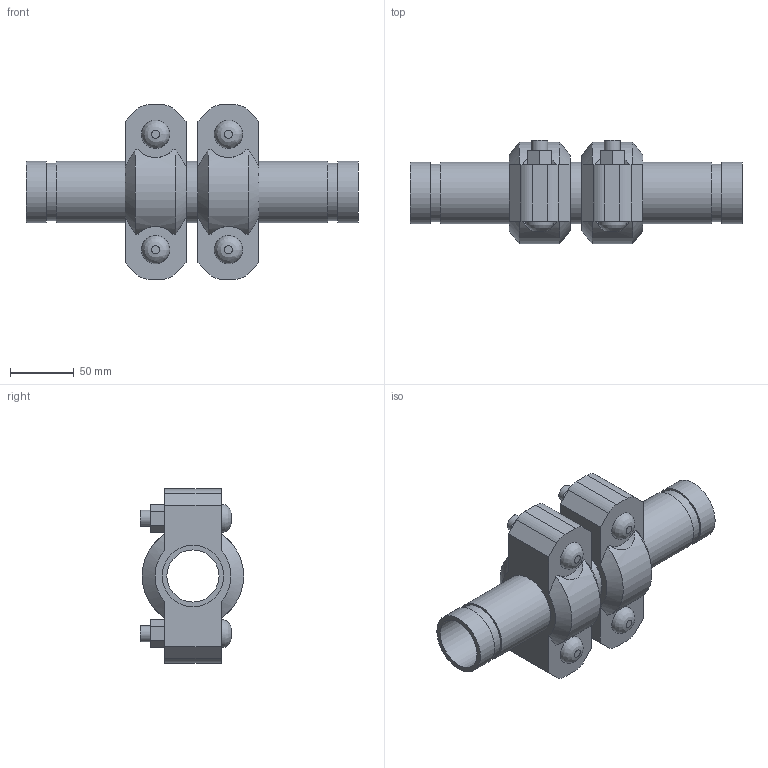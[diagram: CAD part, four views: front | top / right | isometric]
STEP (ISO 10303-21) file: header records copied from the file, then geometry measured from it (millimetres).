
FILE_DESCRIPTION(/* description */ ('VIC EXPANSION JOINT 2 COUPLINGS COMPRESSED STYLE 155 (OGS)','CAx-IF Rec.Pracs.---Representation and Presentation of Product Manufacturing Information (PMI)---4.0---2014-10-13'),/* implementation_level */ '2;1');
FILE_NAME(/* name */ 'C:\Users\kkamble\AppData\Roaming\Autodesk\ApplicationPlugins\Victaulic.Temp\A11\Victaulic_IPS_Expansion Joint_Compressed_2 Couplings_Style 155 (OGS)_1.5 (40).stp',/* time_stamp */ '2021-06-27T00:23:08+02:00',/* author */ ('kkamble'),/* organization */ ('Victaulic'),/* preprocessor_version */ 'ST-DEVELOPER v17.2',/* originating_system */ 'Autodesk Inventor 2019',/* authorisation */ '');
FILE_SCHEMA (('AP242_MANAGED_MODEL_BASED_3D_ENGINEERING_MIM_LF { 1 0 10303 442 1 1 4 }'));
Length unit declared in the file: inch
Products named in the file (4): 155-01.5; Nipple-01.5; Nipple-01.5_1; 077-01.5
Assembly tree (5 placements, depth 2):
  155-01.5
    Nipple-01.5  x2
    Nipple-01.5_1
    077-01.5  x2
Bounding box: 260.35 x 81.03 x 136.65 mm (x, y, z)
Volume: 649591.6 mm3; surface area: 167744.6 mm2
Topology: 5 solids, 9 shells, 150 faces, 368 edges, 260 vertices
Faces by surface type: plane 86, cylinder 52, cone 8, bspline 4
Full cylindrical faces by diameter (mm): 12.7 x8, 14.605 x4, 40.894 x3, 45.085 x6, 48.26 x11
Entity records: 2875 total; most frequent: CARTESIAN_POINT 583, DIRECTION 455, ORIENTED_EDGE 398, EDGE_CURVE 199, AXIS2_PLACEMENT_3D 180, VERTEX_POINT 142, EDGE_LOOP 105, LINE 95
